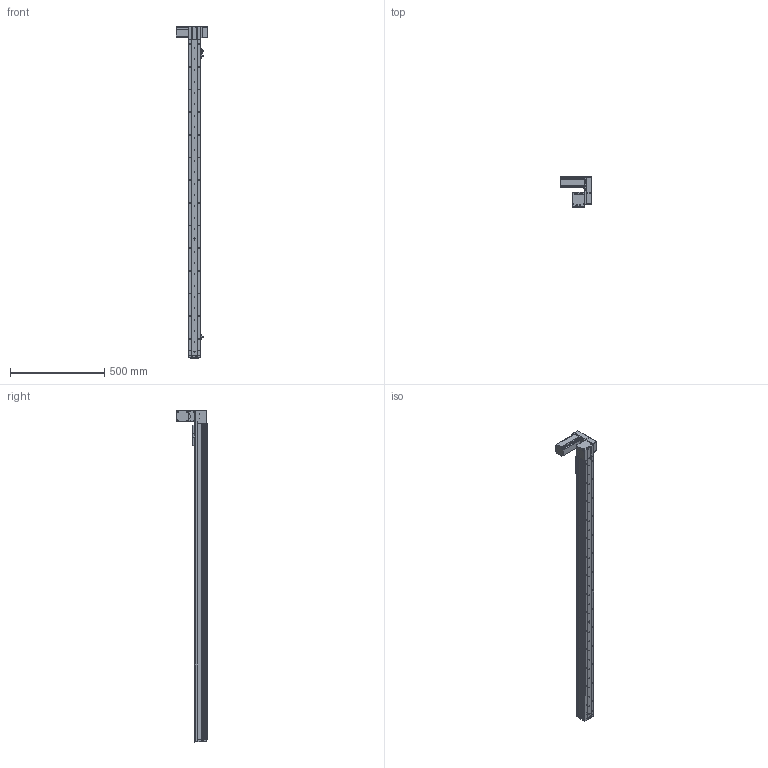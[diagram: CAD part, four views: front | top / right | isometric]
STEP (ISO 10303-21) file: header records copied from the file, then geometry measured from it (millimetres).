
FILE_DESCRIPTION (( 'STEP AP214' ), '1' );
FILE_NAME ('KSD68BS-S1500-MLU-CR.STEP', '2019-08-27T08:47:02', ( '微软用户' ), ( '微软中国' ), 'SwSTEP 2.0', 'SolidWorks 2014', '' );
FILE_SCHEMA (( 'AUTOMOTIVE_DESIGN' ));
Length unit declared in the file: millimetre
Products named in the file (14): 68宽单导轨全封闭丝杆传动安装板1防护罩; KSD68BS 1500行程盖板全封闭; 68遵裔啣揤啣1; KSD68BS 1500行程侧板全封闭; 68宽单导轨全封闭同步带端板; 68单导轨全封闭同步带电机座左; 68单导轨全封闭同步带安装板; 悵誘欶奻狟殏; 68宽马达安装板连板上折同步带; 感应片68宽全封闭; U倰嫖萇EEㄜSX672; 台达ECMA－C20604AS伺服电机（400W); KSD68BS 1500行程底板全封闭; KSD68BS-S1500-MLU-CR
Assembly tree (17 placements, depth 2):
  KSD68BS-S1500-MLU-CR
    KSD68BS 1500行程底板全封闭
    台达ECMA－C20604AS伺服电机（400W)
    U倰嫖萇EEㄜSX672  x3
    感应片68宽全封闭
    68宽马达安装板连板上折同步带
    悵誘欶奻狟殏
    68单导轨全封闭同步带安装板
    68单导轨全封闭同步带电机座左
    68宽单导轨全封闭同步带端板
    KSD68BS 1500行程侧板全封闭  x2
    68宽单导轨全封闭丝杆传动安装板1防护罩
    68遵裔啣揤啣1  x2
    KSD68BS 1500行程盖板全封闭
Bounding box: 167.2 x 159.5 x 1758.1 mm (x, y, z)
Volume: 3209811.6 mm3; surface area: 1289962.9 mm2
Topology: 18 solids, 18 shells, 1601 faces, 4607 edges, 2936 vertices
Faces by surface type: cylinder 784, plane 629, cone 188
Entity records: 52151 total; most frequent: CARTESIAN_POINT 9103, DIRECTION 7758, ORIENTED_EDGE 7426, EDGE_CURVE 3713, AXIS2_PLACEMENT_3D 2827, VERTEX_POINT 2434, VECTOR 2104, LINE 2104
